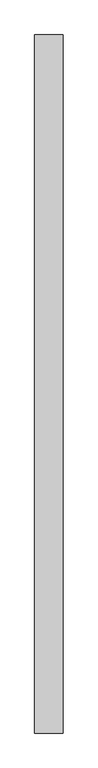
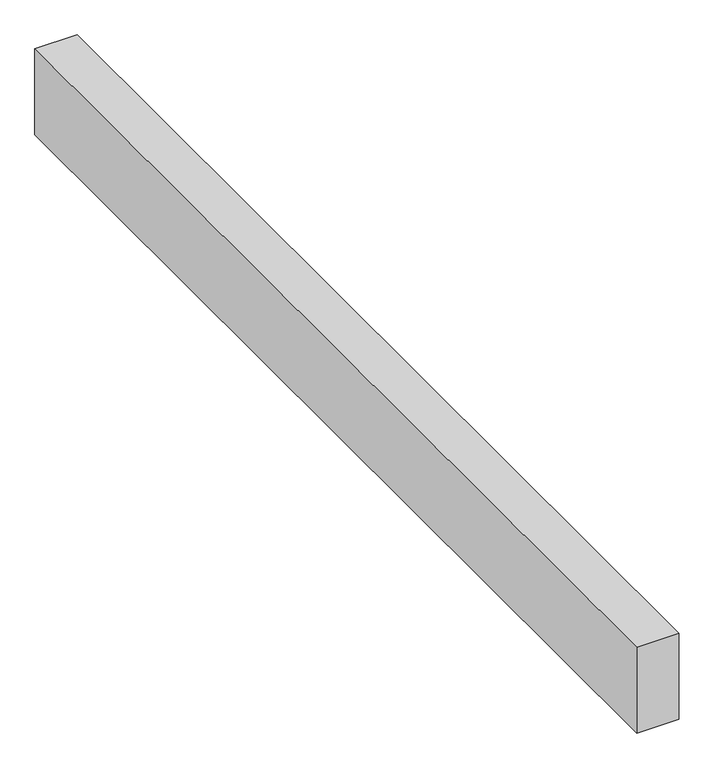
"""IFC4 building model written with IfcOpenShell, lengths in millimetres: proxy geometry."""

import ifcopenshell
import ifcopenshell.guid

model = None  # the IFC model being written
_history = None  # IfcOwnerHistory: only IFC2X3 demands one
_inside = {}  # id of a spatial element -> (the spatial element, [elements in it])
_under = {}  # id of a project, library or spatial element -> (it, [spatial elements below it])
_declared = {}  # id of a project -> (the project, [libraries it declares])
_typed = {}  # id of a type object -> (the type object, [elements of that type])
_made_of = {}  # id of a material, layer set ... -> (it, [elements and type objects made of it])


def new_model(schema):
    """Start an empty IFC model of exactly this schema.

    Asked for "IFC4X3", IfcOpenShell would pick the latest addendum, in which some entities
    have other attributes; the version numbers below select the first issue.
    IFC2X3 requires an IfcOwnerHistory on every rooted entity: one is made here for all.
    """
    global model, _history
    if schema == "IFC4X3":
        model = ifcopenshell.file(schema_version=(4, 3, 0, 0))
    else:
        model = ifcopenshell.file(schema=schema)
    _inside.clear()
    _under.clear()
    _declared.clear()
    _typed.clear()
    _made_of.clear()
    _history = None
    if model.schema == "IFC2X3":
        org = make("IfcOrganization", Name="unknown")
        user = make(
            "IfcPersonAndOrganization",
            ThePerson=make("IfcPerson", FamilyName="unknown"),
            TheOrganization=org,
        )
        app = make(
            "IfcApplication",
            ApplicationDeveloper=org,
            Version="unknown",
            ApplicationFullName="unknown",
            ApplicationIdentifier="unknown",
        )
        _history = make(
            "IfcOwnerHistory",
            OwningUser=user,
            OwningApplication=app,
            ChangeAction="ADDED",
            CreationDate=0,
        )
    return model


def make(cls, **values):
    """One entity of the class cls with the attributes given. An attribute that is None is left unset."""
    return model.create_entity(
        cls, **{name: value for name, value in values.items() if value is not None}
    )


def rooted(cls, **values):
    """An entity with a GlobalId (a new one), such as an element, a storey or a relation."""
    return make(cls, GlobalId=ifcopenshell.guid.new(), OwnerHistory=_history, **values)


def si_unit(unit_type, name, prefix=None):
    """IfcSIUnit, for example si_unit("LENGTHUNIT", "METRE", prefix="MILLI")."""
    return make("IfcSIUnit", UnitType=unit_type, Prefix=prefix, Name=name)


def assignment(units):
    """IfcUnitAssignment: the units of a project."""
    return None if units is None else make("IfcUnitAssignment", Units=units)


def point(xyz):
    """IfcCartesianPoint."""
    return None if xyz is None else make("IfcCartesianPoint", Coordinates=xyz)


def direction(xyz):
    """IfcDirection."""
    return None if xyz is None else make("IfcDirection", DirectionRatios=xyz)


def frame(location, z_axis=None, x_axis=None):
    """IfcAxis2Placement3D, a coordinate frame: its origin and axes. An axis left out is left unset."""
    return make(
        "IfcAxis2Placement3D",
        Location=point(location),
        Axis=direction(z_axis),
        RefDirection=direction(x_axis),
    )


def origin():
    """The frame at (0, 0, 0) with its axes left unset."""
    return frame((0.0, 0.0, 0.0))


def place(relative_to, where):
    """IfcLocalPlacement: puts the frame where relative to a parent placement (None: the world)."""
    return make(
        "IfcLocalPlacement", PlacementRelTo=relative_to, RelativePlacement=where
    )


def context(
    kind, dimensions, precision=None, world=None, true_north=None, identifier=None
):
    """IfcGeometricRepresentationContext, for example the 3D "Model" context."""
    return make(
        "IfcGeometricRepresentationContext",
        ContextIdentifier=identifier,
        ContextType=kind,
        CoordinateSpaceDimension=dimensions,
        Precision=precision,
        WorldCoordinateSystem=world,
        TrueNorth=true_north,
    )


def project(units=None, contexts=None):
    """IfcProject with its units and contexts."""
    return rooted(
        "IfcProject",
        Name="project",
        RepresentationContexts=contexts,
        UnitsInContext=assignment(units),
    )


def spatial(cls, under=None, at=None, **own):
    """A site, building, storey or space (cls), placed at a placement, below another one or the project."""
    s = rooted(cls, ObjectPlacement=at, **own)
    if under is not None:
        _under.setdefault(under.id(), (under, []))[1].append(s)
    return s


def polyline(points):
    """IfcPolyline through the points."""
    return make("IfcPolyline", Points=[point(p) for p in points])


def outline(outer, holes=None, kind="AREA"):
    """IfcArbitraryClosedProfileDef: a profile drawn as a closed curve; with holes, ...WithVoids."""
    if holes is None:
        return make("IfcArbitraryClosedProfileDef", ProfileType=kind, OuterCurve=outer)
    return make(
        "IfcArbitraryProfileDefWithVoids",
        ProfileType=kind,
        OuterCurve=outer,
        InnerCurves=holes,
    )


def extrude(swept, where, along, depth):
    """IfcExtrudedAreaSolid: the profile swept, set in the frame where, extruded along a direction by depth."""
    return make(
        "IfcExtrudedAreaSolid",
        SweptArea=swept,
        Position=where,
        ExtrudedDirection=direction(along),
        Depth=depth,
    )


def shape(context_of_items, identifier, shape_type, items):
    """IfcShapeRepresentation: the items that make up one representation, for example the "Body"."""
    return make(
        "IfcShapeRepresentation",
        ContextOfItems=context_of_items,
        RepresentationIdentifier=identifier,
        RepresentationType=shape_type,
        Items=items,
    )


def source(mapping_origin, context_of_items, identifier, shape_type, items):
    """IfcRepresentationMap: a shape defined once, which mapped items show again and again."""
    return make(
        "IfcRepresentationMap",
        MappingOrigin=mapping_origin,
        MappedRepresentation=shape(context_of_items, identifier, shape_type, items),
    )


def transform(
    local_origin,
    x_axis=None,
    y_axis=None,
    z_axis=None,
    scale=None,
    scale2=None,
    scale3=None,
    uniform=True,
):
    """IfcCartesianTransformationOperator3D, or its non-uniform kind. x_axis, y_axis, z_axis: its Axis1, 2, 3."""
    if uniform:
        return make(
            "IfcCartesianTransformationOperator3D",
            Axis1=direction(x_axis),
            Axis2=direction(y_axis),
            LocalOrigin=point(local_origin),
            Scale=scale,
            Axis3=direction(z_axis),
        )
    return make(
        "IfcCartesianTransformationOperator3DnonUniform",
        Axis1=direction(x_axis),
        Axis2=direction(y_axis),
        LocalOrigin=point(local_origin),
        Scale=scale,
        Axis3=direction(z_axis),
        Scale2=scale2,
        Scale3=scale3,
    )


def mapped(mapping_source, mapping_target):
    """IfcMappedItem: shows the shape of a source again, moved by a transform."""
    return make(
        "IfcMappedItem", MappingSource=mapping_source, MappingTarget=mapping_target
    )


def made_of(thing, what):
    """Note that an element or type object is made of a material, layer set ...; save() writes the relation."""
    if what is not None:
        _made_of.setdefault(what.id(), (what, []))[1].append(thing)
    return thing


def element(
    cls,
    number,
    at=None,
    inside=None,
    cuts=None,
    type_object=None,
    material=None,
    context=None,
    identifier="Body",
    shape_type=None,
    held_by="IfcProductDefinitionShape",
    body=None,
    shapes=None,
    **own,
):
    """One element of the class cls, such as IfcWall. Its Tag is "e" and its number.

    at: its placement. inside: the storey or other place that contains it. cuts: it is an
    opening in that element (IfcRelVoidsElement). A single representation is given by context,
    identifier, shape_type and body (its items); several are given by shapes. held_by: the class
    of the entity that holds the representations. save() writes the other relations.
    """
    e = rooted(cls, Tag="e%d" % number, ObjectPlacement=at, **own)
    if body is not None:
        shapes = [shape(context, identifier, shape_type, body)]
    if shapes is not None:
        e.Representation = make(held_by, Representations=shapes)
    if inside is not None:
        _inside.setdefault(inside.id(), (inside, []))[1].append(e)
    if cuts is not None:
        rooted(
            "IfcRelVoidsElement", RelatingBuildingElement=cuts, RelatedOpeningElement=e
        )
    if type_object is not None:
        _typed.setdefault(type_object.id(), (type_object, []))[1].append(e)
    return made_of(e, material)


def aggregate(whole, parts):
    """IfcRelAggregates: a whole, such as a stair, and the parts it consists of."""
    return rooted("IfcRelAggregates", RelatingObject=whole, RelatedObjects=parts)


def save(model, path):
    """Write the relations noted so far, then the file.

    IfcRelAggregates (storeys below a building ...), IfcRelContainedInSpatialStructure (elements
    in a storey), IfcRelDefinesByType, IfcRelAssociatesMaterial and IfcRelDeclares: one each for
    every whole, place, type object, material and project.
    """
    for whole, parts in _under.values():
        aggregate(whole, parts)
    for where, things in _inside.values():
        rooted(
            "IfcRelContainedInSpatialStructure",
            RelatedElements=things,
            RelatingStructure=where,
        )
    for kind, things in _typed.values():
        rooted("IfcRelDefinesByType", RelatedObjects=things, RelatingType=kind)
    for what, things in _made_of.values():
        rooted("IfcRelAssociatesMaterial", RelatedObjects=things, RelatingMaterial=what)
    for by, libraries in _declared.values():
        rooted("IfcRelDeclares", RelatingContext=by, RelatedDefinitions=libraries)
    model.write(path)


def structural_framing_83bffec5(model_context):
    return source(origin(), model_context, "Body", "SweptSolid", [
        extrude(outline(polyline([(70.0, -1722.4), (-70.0, -1722.4), (-70.0, 1722.4), (70.0, 1722.4), (70.0, -1722.4)])), frame((0.0, 0.0, -300.0), z_axis=(0.0, 0.0, 1.0), x_axis=(1.0, 0.0, 0.0)), (0.0, 0.0, 1.0), 300.0),
    ])


if __name__ == "__main__":
    model = new_model("IFC4")
    model_context = context("Model", 3, world=origin())
    ifc_project = project(units=[si_unit("LENGTHUNIT", "METRE", prefix="MILLI")], contexts=[model_context])
    site = spatial("IfcSite", under=ifc_project)
    building = spatial("IfcBuilding", under=site)
    placement = place(None, origin())
    structural_framing_shape = structural_framing_83bffec5(model_context)
    element("IfcBuildingElementProxy", 1, Name="Structural Framing", at=placement, inside=building, context=model_context, shape_type="MappedRepresentation", body=[
        mapped(structural_framing_shape, transform((0.0, 0.0, 0.0), x_axis=(1.0, 0.0, 0.0), y_axis=(0.0, 1.0, 0.0), z_axis=(0.0, 0.0, 1.0))),
    ])
    save(model, "model.ifc")
